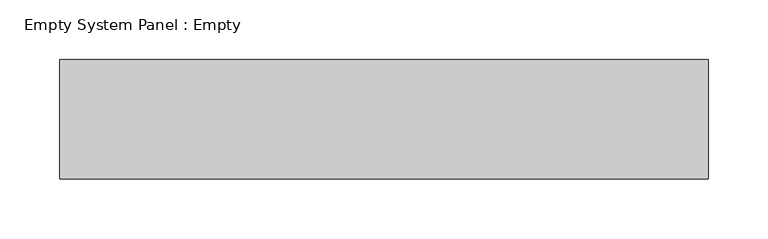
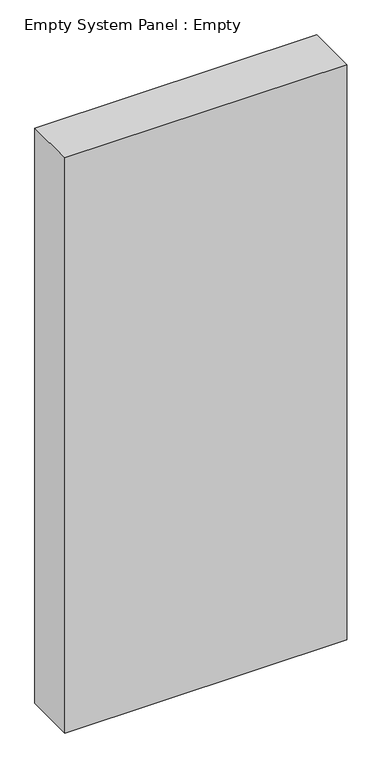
"""IFC4 building model written with IfcOpenShell, lengths in millimetres: plate geometry, Empty System Panel : Empty."""

from ifc_helpers import new_model, si_unit, origin, origin_with_axes, place, context, project, spatial, polyline, outline, extrude, source, transform, mapped, element, save


def empty_system_panel_empty_b3b2cc3c(model_context):
    return source(origin(), model_context, "Body", "SweptSolid", [
        extrude(outline(polyline([(271.6623204, -50.0), (-271.6623204, -50.0), (-271.6623204, 50.0), (271.6623204, 50.0), (271.6623204, -50.0)])), origin_with_axes(), (0.0, 0.0, 1.0), 1172.5),
    ])


if __name__ == "__main__":
    model = new_model("IFC4")
    model_context = context("Model", 3, world=origin())
    ifc_project = project(units=[si_unit("LENGTHUNIT", "METRE", prefix="MILLI")], contexts=[model_context])
    site = spatial("IfcSite", under=ifc_project)
    building = spatial("IfcBuilding", under=site)
    placement = place(None, origin())
    empty_system_panel_empty_shape = empty_system_panel_empty_b3b2cc3c(model_context)
    element("IfcPlate", 1, ObjectType="Empty System Panel : Empty", at=placement, inside=building, context=model_context, shape_type="MappedRepresentation", body=[
        mapped(empty_system_panel_empty_shape, transform((0.0, 0.0, 0.0), x_axis=(1.0, 0.0, 0.0), y_axis=(0.0, 1.0, 0.0), z_axis=(0.0, 0.0, 1.0))),
    ])
    save(model, "model.ifc")
